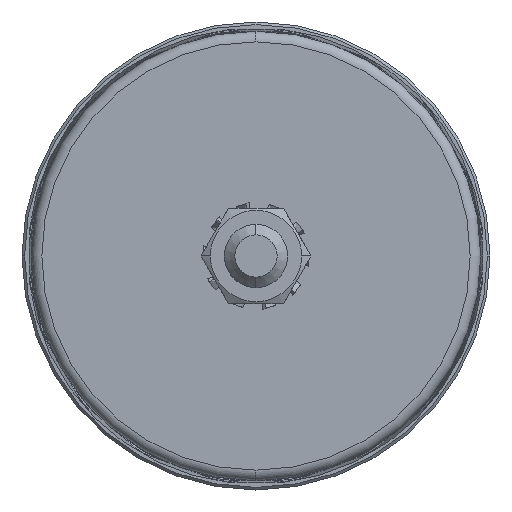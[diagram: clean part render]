
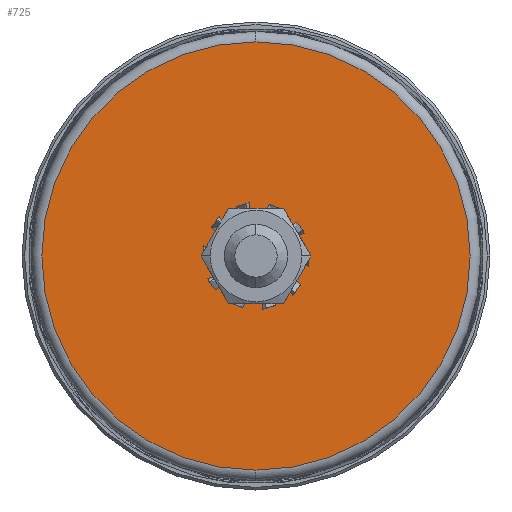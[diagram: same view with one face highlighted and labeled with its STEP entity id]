
A CAD part, front view. The second image highlights one B-rep face of the part: STEP entity #725.
In plain terms, the highlighted planar face has unit normal (0, -1, 0).
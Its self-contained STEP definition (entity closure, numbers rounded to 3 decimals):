
#139 = DIRECTION ( 'NONE',  ( 0., 1., 0. ) ) ;
#407 = AXIS2_PLACEMENT_3D ( 'NONE', #9130, #6820, #10392 ) ;
#725 = ADVANCED_FACE ( 'NONE', ( #13066, #12687 ), #14579, .T. ) ;
#1929 = CARTESIAN_POINT ( 'NONE',  ( 0., 0., 0. ) ) ;
#2705 = ORIENTED_EDGE ( 'NONE', *, *, #3399, .T. ) ;
#2773 = CARTESIAN_POINT ( 'NONE',  ( 0., 0., -40.5 ) ) ;
#3399 = EDGE_CURVE ( 'NONE', #10096, #6986, #13395, .T. ) ;
#3791 = AXIS2_PLACEMENT_3D ( 'NONE', #9579, #8452, #11892 ) ;
#5340 = ORIENTED_EDGE ( 'NONE', *, *, #12162, .T. ) ;
#5486 = DIRECTION ( 'NONE',  ( 0., 1., 0. ) ) ;
#5654 = EDGE_LOOP ( 'NONE', ( #6156, #14867 ) ) ;
#6099 = DIRECTION ( 'NONE',  ( 0., -1., 0. ) ) ;
#6156 = ORIENTED_EDGE ( 'NONE', *, *, #11059, .T. ) ;
#6644 = AXIS2_PLACEMENT_3D ( 'NONE', #9913, #6099, #13489 ) ;
#6820 = DIRECTION ( 'NONE',  ( 0., -1., 0. ) ) ;
#6986 = VERTEX_POINT ( 'NONE', #2773 ) ;
#8116 = VERTEX_POINT ( 'NONE', #13400 ) ;
#8452 = DIRECTION ( 'NONE',  ( 0., -1., 0. ) ) ;
#9130 = CARTESIAN_POINT ( 'NONE',  ( 0., 0., 0. ) ) ;
#9579 = CARTESIAN_POINT ( 'NONE',  ( 0., 0., 0. ) ) ;
#9582 = VERTEX_POINT ( 'NONE', #11613 ) ;
#9901 = CARTESIAN_POINT ( 'NONE',  ( 0., 0., 0. ) ) ;
#9913 = CARTESIAN_POINT ( 'NONE',  ( 6., 0., 0. ) ) ;
#10096 = VERTEX_POINT ( 'NONE', #15068 ) ;
#10375 = AXIS2_PLACEMENT_3D ( 'NONE', #1929, #5486, #10390 ) ;
#10390 = DIRECTION ( 'NONE',  ( 0., 0., -1. ) ) ;
#10392 = DIRECTION ( 'NONE',  ( 0., 0., -1. ) ) ;
#11022 = CIRCLE ( 'NONE', #407, 40.5 ) ;
#11059 = EDGE_CURVE ( 'NONE', #9582, #8116, #15616, .T. ) ;
#11168 = DIRECTION ( 'NONE',  ( 0., 0., -1. ) ) ;
#11613 = CARTESIAN_POINT ( 'NONE',  ( 0., 0., -8. ) ) ;
#11892 = DIRECTION ( 'NONE',  ( 0., 0., -1. ) ) ;
#12162 = EDGE_CURVE ( 'NONE', #6986, #10096, #11022, .T. ) ;
#12687 = FACE_OUTER_BOUND ( 'NONE', #13310, .T. ) ;
#13066 = FACE_BOUND ( 'NONE', #5654, .T. ) ;
#13310 = EDGE_LOOP ( 'NONE', ( #5340, #2705 ) ) ;
#13395 = CIRCLE ( 'NONE', #3791, 40.5 ) ;
#13400 = CARTESIAN_POINT ( 'NONE',  ( 0., 0., 8. ) ) ;
#13489 = DIRECTION ( 'NONE',  ( 0., 0., -1. ) ) ;
#14069 = AXIS2_PLACEMENT_3D ( 'NONE', #9901, #139, #11168 ) ;
#14579 = PLANE ( 'NONE',  #6644 ) ;
#14867 = ORIENTED_EDGE ( 'NONE', *, *, #15669, .T. ) ;
#15068 = CARTESIAN_POINT ( 'NONE',  ( 0., 0., 40.5 ) ) ;
#15616 = CIRCLE ( 'NONE', #10375, 8. ) ;
#15669 = EDGE_CURVE ( 'NONE', #8116, #9582, #15722, .T. ) ;
#15722 = CIRCLE ( 'NONE', #14069, 8. ) ;
